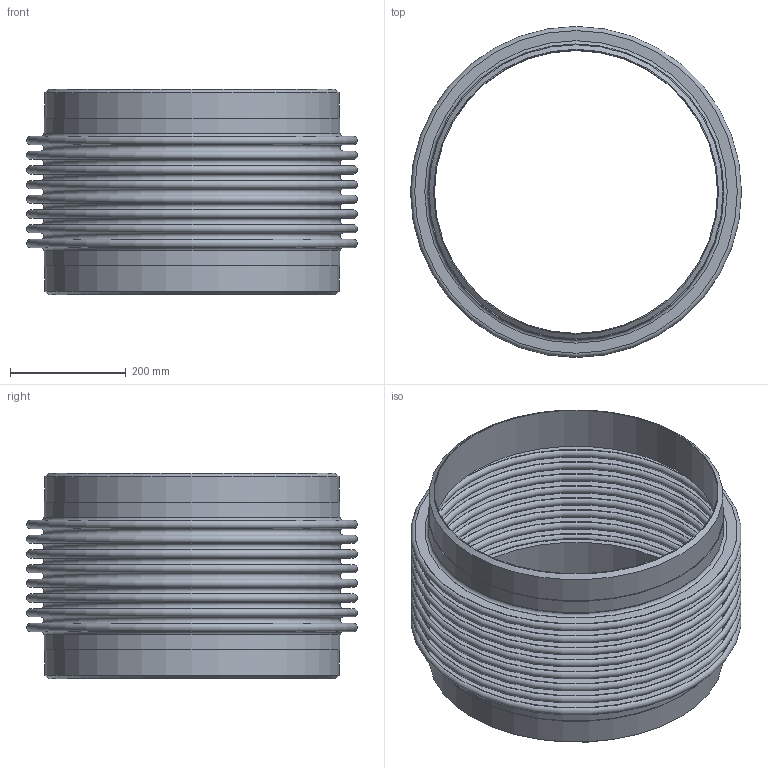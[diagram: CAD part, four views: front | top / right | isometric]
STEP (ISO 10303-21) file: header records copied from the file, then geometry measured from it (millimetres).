
FILE_DESCRIPTION(/* description */ (''),/* implementation_level */ '2;1');
FILE_NAME(/* name */ 'PIPE- 20- 150 PSIG ASSEMBLY PART.stp',/* time_stamp */ '2026-07-24T15:39:05-05:00',/* author */ ('jorgef'),/* organization */ (''),/* preprocessor_version */ 'ST-DEVELOPER v20.1',/* originating_system */ 'Autodesk Inventor 2026',/* authorisation */ '');
FILE_SCHEMA (('AUTOMOTIVE_DESIGN { 1 0 10303 214 3 1 1 }'));
Length unit declared in the file: inch
Products named in the file (1): PIPE- 20- 150 PSIG ASSEMBLY PART
Bounding box: 571.5 x 571.5 x 355.6 mm (x, y, z)
Volume: 3870300.3 mm3; surface area: 2562863.4 mm2
Topology: 1 solids, 1 shells, 80 faces, 126 edges, 84 vertices
Faces by surface type: plane 38, torus 34, cylinder 6, cone 2
Full cylindrical faces by diameter (mm): 488.95 x2, 508 x2, 511.048 x2
Entity records: 2035 total; most frequent: DIRECTION 406, CARTESIAN_POINT 291, ORIENTED_EDGE 252, AXIS2_PLACEMENT_3D 199, EDGE_CURVE 126, EDGE_LOOP 118, CIRCLE 118, VERTEX_POINT 84
